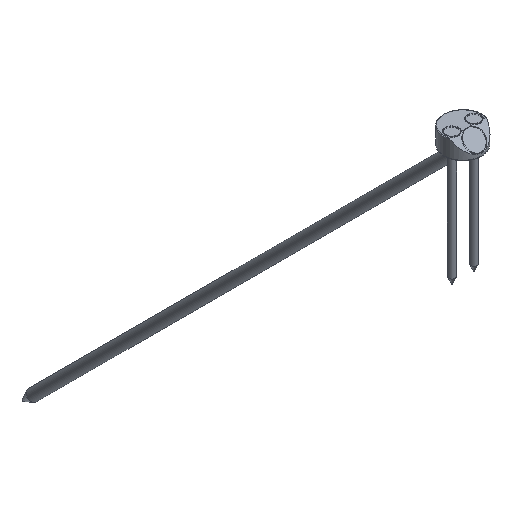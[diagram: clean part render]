
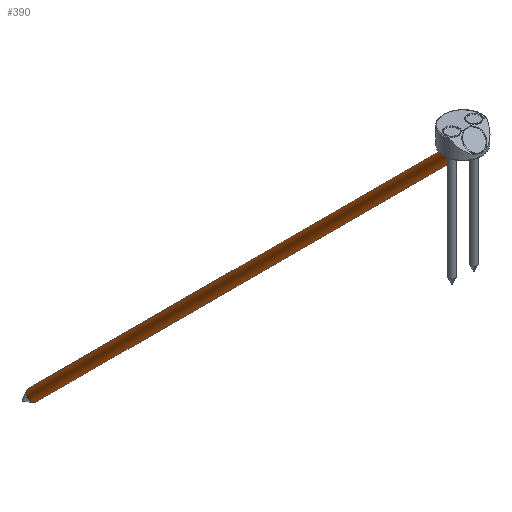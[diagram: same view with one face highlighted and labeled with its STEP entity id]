
A CAD part, isometric view. The second image highlights one B-rep face of the part: STEP entity #390.
In plain terms, the highlighted cylindrical face has radius 5 mm (diameter 10 mm), a full revolution.
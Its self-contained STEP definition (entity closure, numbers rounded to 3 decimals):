
#59=CYLINDRICAL_SURFACE('',#480,5.);
#91=CIRCLE('',#479,5.);
#92=CIRCLE('',#481,5.);
#165=ORIENTED_EDGE('',*,*,#206,.T.);
#166=ORIENTED_EDGE('',*,*,#205,.F.);
#205=EDGE_CURVE('',#238,#238,#91,.T.);
#206=EDGE_CURVE('',#239,#239,#92,.T.);
#238=VERTEX_POINT('',#733);
#239=VERTEX_POINT('',#736);
#297=EDGE_LOOP('',(#165));
#298=EDGE_LOOP('',(#166));
#350=FACE_BOUND('',#297,.T.);
#351=FACE_BOUND('',#298,.T.);
#390=ADVANCED_FACE('',(#350,#351),#59,.T.);
#479=AXIS2_PLACEMENT_3D('',#732,#602,#603);
#480=AXIS2_PLACEMENT_3D('',#734,#604,#605);
#481=AXIS2_PLACEMENT_3D('',#735,#606,#607);
#602=DIRECTION('',(0.,1.,0.));
#603=DIRECTION('',(0.,0.,1.));
#604=DIRECTION('',(0.,1.,0.));
#605=DIRECTION('',(0.,0.,1.));
#606=DIRECTION('',(0.,1.,0.));
#607=DIRECTION('',(0.,0.,1.));
#732=CARTESIAN_POINT('',(0.,42.,0.));
#733=CARTESIAN_POINT('',(0.,42.,5.));
#734=CARTESIAN_POINT('',(0.,54.,0.));
#735=CARTESIAN_POINT('',(0.,-513.,0.));
#736=CARTESIAN_POINT('',(0.,-513.,5.));
